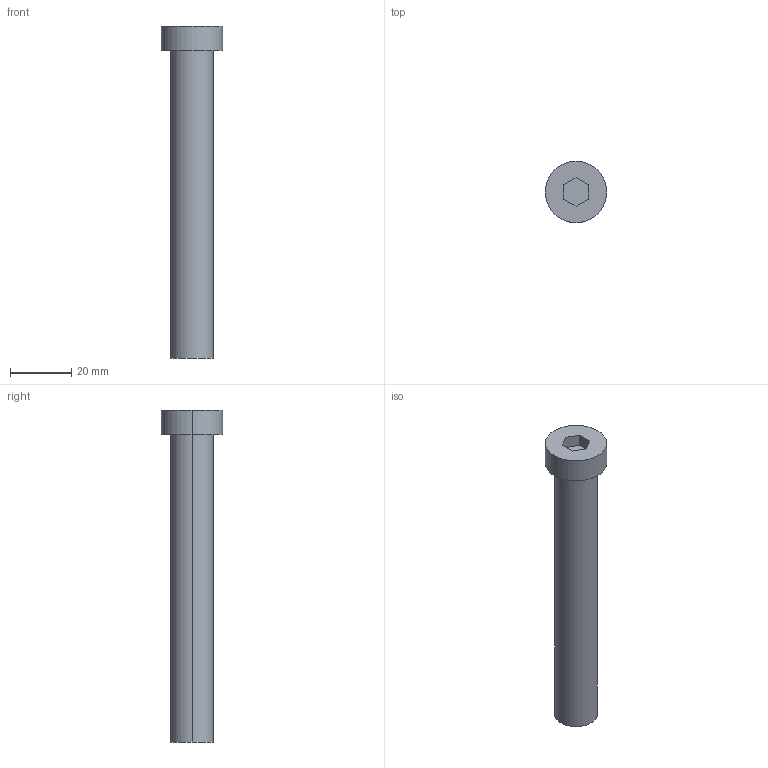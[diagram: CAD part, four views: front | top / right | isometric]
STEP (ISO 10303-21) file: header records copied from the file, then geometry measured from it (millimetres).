
FILE_DESCRIPTION (( 'STEP AP214' ), '1' );
FILE_NAME ('BruyRubio_TGH__14_x_100_-_M-8.STEP', '2019-12-22T23:34:47', ( '' ), ( '' ), 'SwSTEP 2.0', 'SolidWorks 2017', '' );
FILE_SCHEMA (( 'AUTOMOTIVE_DESIGN' ));
Length unit declared in the file: millimetre
Products named in the file (1): BruyRubio_TGH__14_x_100_-_M-8
Bounding box: 20 x 20 x 108 mm (x, y, z)
Volume: 16957.5 mm3; surface area: 7001.3 mm2
Topology: 2 solids, 2 shells, 27 faces, 58 edges, 37 vertices
Faces by surface type: plane 13, cylinder 12, cone 2
Entity records: 1070 total; most frequent: DIRECTION 136, CARTESIAN_POINT 121, ORIENTED_EDGE 112, EDGE_CURVE 56, AXIS2_PLACEMENT_3D 52, VERTEX_POINT 37, EDGE_LOOP 33, LINE 32
